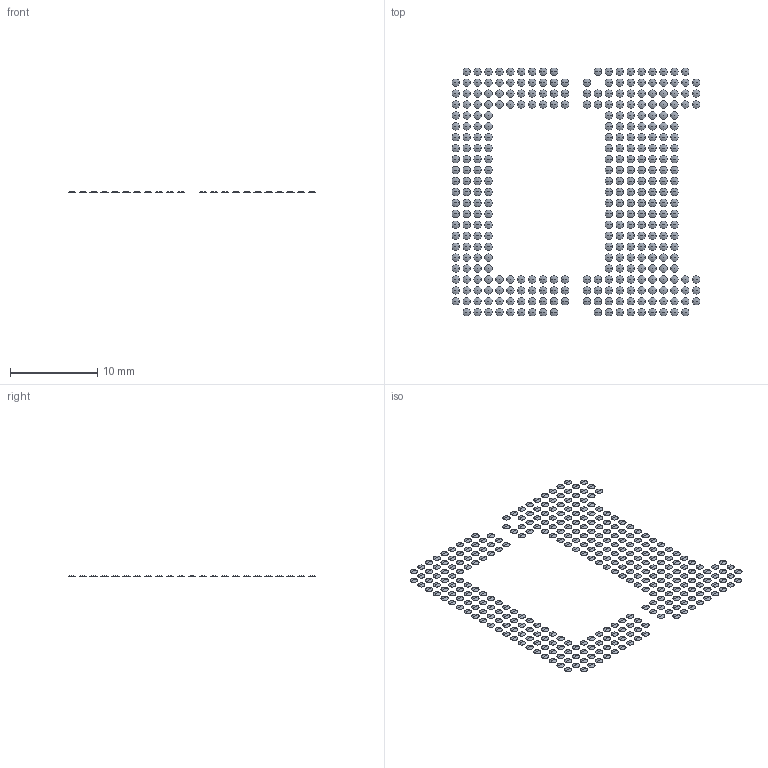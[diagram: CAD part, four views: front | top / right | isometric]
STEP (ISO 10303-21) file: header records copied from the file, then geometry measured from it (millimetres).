
FILE_DESCRIPTION(('STEP AP242'),'1');
FILE_NAME('fs_osm_lga332_1p25_30x30_bb.step','2024-03-13T10:26:52',(' '),(' '),'Spatial InterOp 3D',' ',' ');
FILE_SCHEMA(('AP242_MANAGED_MODEL_BASED_3D_ENGINEERING_MIM_LF {1 0 10303 442 1 1 4}'));
Length unit declared in the file: metre
Products named in the file (3): Komponente1; Component122; fs_osm_lga332_1p25_30x30_bb
Assembly tree (2 placements, depth 3):
  fs_osm_lga332_1p25_30x30_bb
    Komponente1
      Component122
Bounding box: 28.33 x 28.33 x 0.09 mm (x, y, z)
Volume: 8.2 mm3; surface area: 367 mm2
Topology: 332 solids, 332 shells, 996 faces, 1993 edges, 997 vertices
Faces by surface type: sphere 664, plane 332
Entity records: 31961 total; most frequent: DIRECTION 4658, CARTESIAN_POINT 3326, ORIENTED_EDGE 2658, AXIS2_PLACEMENT_3D 2329, EDGE_CURVE 1329, CIRCLE 1329, STYLED_ITEM 1328, PRESENTATION_STYLE_ASSIGNMENT 1328
